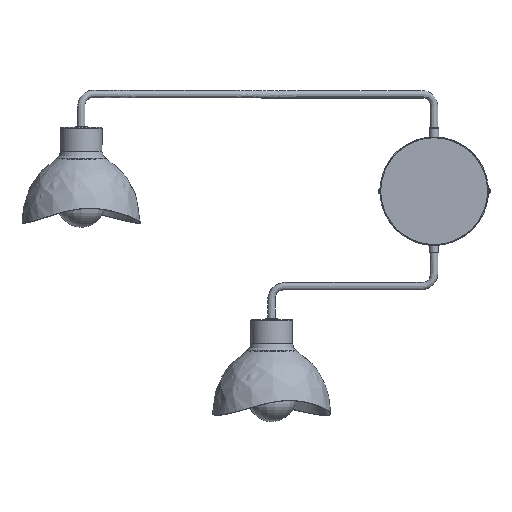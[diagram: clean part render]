
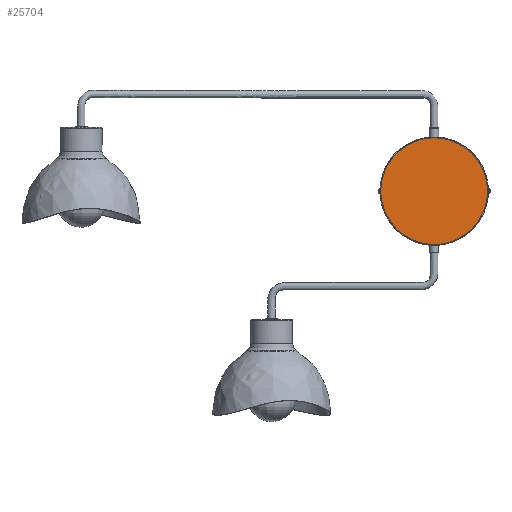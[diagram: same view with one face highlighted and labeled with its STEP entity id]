
A CAD part, top view. The second image highlights one B-rep face of the part: STEP entity #25704.
In plain terms, the highlighted free-form (B-spline) face has degree [1, 1] with [2, 2] control points.
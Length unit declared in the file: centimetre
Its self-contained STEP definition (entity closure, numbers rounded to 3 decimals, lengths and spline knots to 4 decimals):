
#25640 = CARTESIAN_POINT ('', (6.4, 0., 1.7));
#25641 = VERTEX_POINT ('', #25640);
#25662 = CARTESIAN_POINT ('', (6.4, 0., 1.7));
#25663 = CARTESIAN_POINT ('', (6.4, 6.4, 1.7));
#25664 = CARTESIAN_POINT ('', (0., 6.4, 1.7));
#25665 = CARTESIAN_POINT ('', (-6.4, 6.4, 1.7));
#25666 = CARTESIAN_POINT ('', (-6.4, 0., 1.7));
#25667 = CARTESIAN_POINT ('', (-6.4, -6.4, 1.7));
#25668 = CARTESIAN_POINT ('', (0., -6.4, 1.7));
#25669 = CARTESIAN_POINT ('', (6.4, -6.4, 1.7));
#25670 = CARTESIAN_POINT ('', (6.4, 0., 1.7));
#25671 = (
   BOUNDED_CURVE ()
   B_SPLINE_CURVE (2, (#25662, #25663, #25664, #25665, #25666, #25667, #25668, #25669, #25670), .UNSPECIFIED., .T., .U.)
   B_SPLINE_CURVE_WITH_KNOTS ((3, 2, 2, 2, 3), (0., 90., 180., 270., 360.), .UNSPECIFIED.)
   CURVE ()
   GEOMETRIC_REPRESENTATION_ITEM ()
   RATIONAL_B_SPLINE_CURVE ((1., 0.707, 1., 0.707, 1., 0.707, 1., 0.707, 1.))
   REPRESENTATION_ITEM ('')
);
#25672 = EDGE_CURVE ('', #25641, #25641, #25671, .T.);
#25696 = ORIENTED_EDGE ('', *, *, #25672, .T.);
#25697 = EDGE_LOOP ('', (#25696));
#25698 = FACE_OUTER_BOUND ('', #25697, .T.);
#25699 = CARTESIAN_POINT ('', (-6.401, -6.401, 1.7));
#25700 = CARTESIAN_POINT ('', (-6.401, 6.401, 1.7));
#25701 = CARTESIAN_POINT ('', (6.401, -6.401, 1.7));
#25702 = CARTESIAN_POINT ('', (6.401, 6.401, 1.7));
#25703 = B_SPLINE_SURFACE_WITH_KNOTS ('', 1, 1, ((#25699, #25700), (#25701, #25702)), .UNSPECIFIED., .F., .F., .U., (2, 2), (2, 2), (-6.401, 6.401), (-6.401, 6.401), .UNSPECIFIED.);
#25704 = ADVANCED_FACE ('', (#25698), #25703, .T.);
